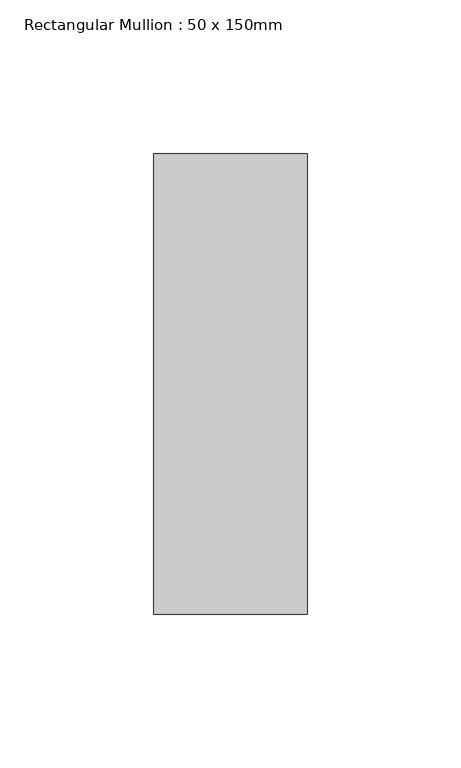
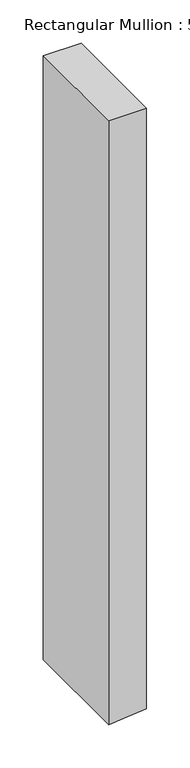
"""IFC4 building model written with IfcOpenShell, lengths in millimetres: member geometry, Rectangular Mullion : 50 x 150mm."""

from ifc_helpers import new_model, si_unit, frame, origin, place, context, project, spatial, polyline, outline, extrude, source, transform, mapped, element, save


def rectangular_mullion_50_x_150mm_07bf8c09(model_context):
    return source(origin(), model_context, "Body", "SweptSolid", [
        extrude(outline(polyline([(0.0, 25.0), (0.0, -25.0), (-848.5965171, -25.0), (-846.58575, -5.0022633), (-843.5690304, 25.0), (0.0, 25.0)])), frame((0.0, -75.0, 0.0), z_axis=(0.0, 1.0, 0.0), x_axis=(0.0, 0.0, 1.0)), (0.0, 0.0, 1.0), 150.0),
    ])


if __name__ == "__main__":
    model = new_model("IFC4")
    model_context = context("Model", 3, world=origin())
    ifc_project = project(units=[si_unit("LENGTHUNIT", "METRE", prefix="MILLI")], contexts=[model_context])
    site = spatial("IfcSite", under=ifc_project)
    building = spatial("IfcBuilding", under=site)
    placement = place(None, origin())
    rectangular_mullion_50_x_150mm_shape = rectangular_mullion_50_x_150mm_07bf8c09(model_context)
    element("IfcMember", 1, ObjectType="Rectangular Mullion : 50 x 150mm", at=placement, inside=building, context=model_context, shape_type="MappedRepresentation", body=[
        mapped(rectangular_mullion_50_x_150mm_shape, transform((0.0, 0.0, 0.0), x_axis=(1.0, 0.0, 0.0), y_axis=(0.0, 1.0, 0.0), z_axis=(0.0, 0.0, 1.0))),
    ])
    save(model, "model.ifc")
